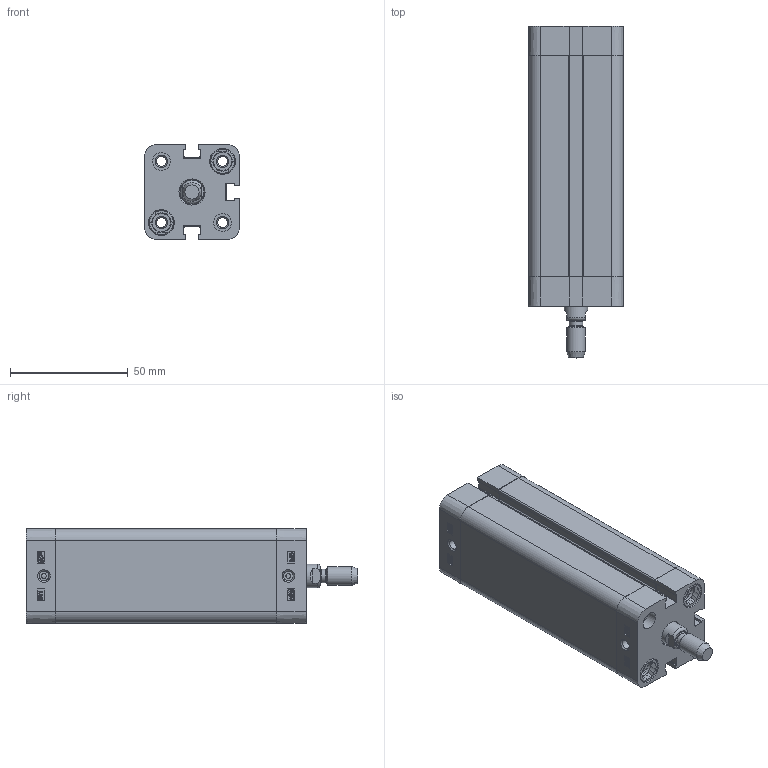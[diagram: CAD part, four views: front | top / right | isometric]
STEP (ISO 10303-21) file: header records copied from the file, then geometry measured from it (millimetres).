
FILE_DESCRIPTION((''),'2;1');
FILE_NAME('T:\Archivio Inventor\- CATALOGHI 2012\SERIE P - NUOVA\PDM\PDM025\PDM025.---.GS.M\PDM025.080.GS.M.stp','2013-01-31T08:08:19',('Administrator'),(''),'Autodesk Inventor 2012','Autodesk Inventor 2012','');
FILE_SCHEMA(('CONFIG_CONTROL_DESIGN'));
Length unit declared in the file: millimetre
Products named in the file (1): PDM025.080.GS.M
Bounding box: 40.3 x 141 x 40.3 mm (x, y, z)
Volume: 99009.6 mm3; surface area: 50759.1 mm2
Topology: 1 solids, 3 shells, 596 faces, 1552 edges, 1017 vertices
Faces by surface type: plane 312, cylinder 130, bspline 92, cone 50, torus 12
Full cylindrical faces by diameter (mm): 2 x2, 4.134 x10, 5.8 x1, 7.5 x4, 7.55 x2, 8 x9, 9 x1, 10 x1, 10.5 x1, 10.8 x4, 11.1 x4, 25 x1, 27.3 x1, 27.5 x1
Entity records: 18782 total; most frequent: CARTESIAN_POINT 4306, ORIENTED_EDGE 2888, DIRECTION 2606, EDGE_CURVE 1444, VERTEX_POINT 1002, VECTOR 898, LINE 898, AXIS2_PLACEMENT_3D 854
